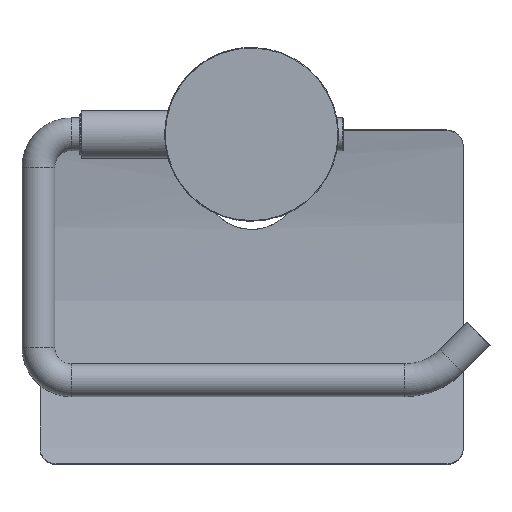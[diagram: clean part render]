
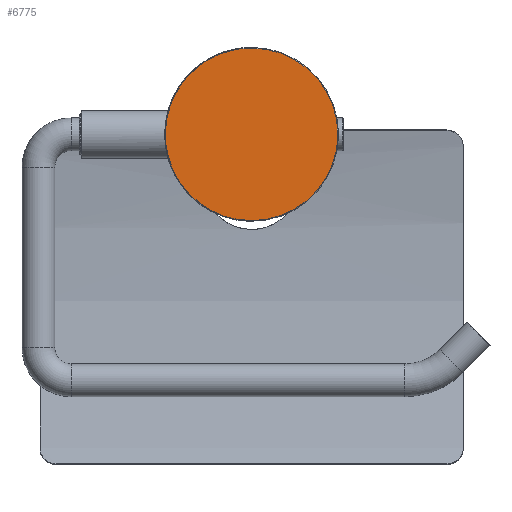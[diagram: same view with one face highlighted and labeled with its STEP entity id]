
A CAD part, front view. The second image highlights one B-rep face of the part: STEP entity #6775.
In plain terms, the highlighted planar face has unit normal (0, -1, 0).
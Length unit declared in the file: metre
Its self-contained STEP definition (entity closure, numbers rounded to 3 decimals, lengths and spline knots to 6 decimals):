
#3243=EDGE_CURVE('',#3244,#3246,#3248,.F.);
#3244=VERTEX_POINT('',#3245);
#3245=CARTESIAN_POINT('',(0.0,0.0,-0.0263));
#3246=VERTEX_POINT('',#3247);
#3247=CARTESIAN_POINT('',(0.0,0.0,0.0263));
#3248=CIRCLE('',#3249,0.0263);
#3249=AXIS2_PLACEMENT_3D('',#3250,#3251,#3252);
#3250=CARTESIAN_POINT('',(0.0,0.0,0.0));
#3251=DIRECTION('',(0.0,1.0,0.0));
#3252=DIRECTION('',(0.0,0.0,1.0));
#6775=ADVANCED_FACE('',(#6781),#6776,.F.);
#6776=PLANE('',#6777);
#6777=AXIS2_PLACEMENT_3D('',#6778,#6779,#6780);
#6778=CARTESIAN_POINT('',(0.0,0.0,0.0265));
#6779=DIRECTION('',(0.0,1.0,0.0));
#6780=DIRECTION('',(0.0,0.0,1.0));
#6781=FACE_OUTER_BOUND('',#6782,.T.);
#6782=EDGE_LOOP('',(#6783,#6791));
#6783=ORIENTED_EDGE('',*,*,#6785,.T.);
#6784=CARTESIAN_POINT('',(0.0,0.0,-0.0263));
#6785=EDGE_CURVE('',#3246,#3244,#6786,.F.);
#6786=(B_SPLINE_CURVE(3,(#6784,#6787,#6788,#6789),.UNSPECIFIED.,.F.,.U.)B_SPLINE_CURVE_WITH_KNOTS(
  (4,4),(0.0,1.0),.UNSPECIFIED.)BOUNDED_CURVE()CURVE()GEOMETRIC_REPRESENTATION_ITEM(
  )RATIONAL_B_SPLINE_CURVE((1.0,0.333,0.333,1.0)
  )REPRESENTATION_ITEM(''));
#6787=CARTESIAN_POINT('',(-0.0526,0.0,-0.0263));
#6788=CARTESIAN_POINT('',(-0.0526,0.0,0.0263));
#6789=CARTESIAN_POINT('',(0.0,0.0,0.0263));
#6791=ORIENTED_EDGE('',*,*,#3243,.T.);
